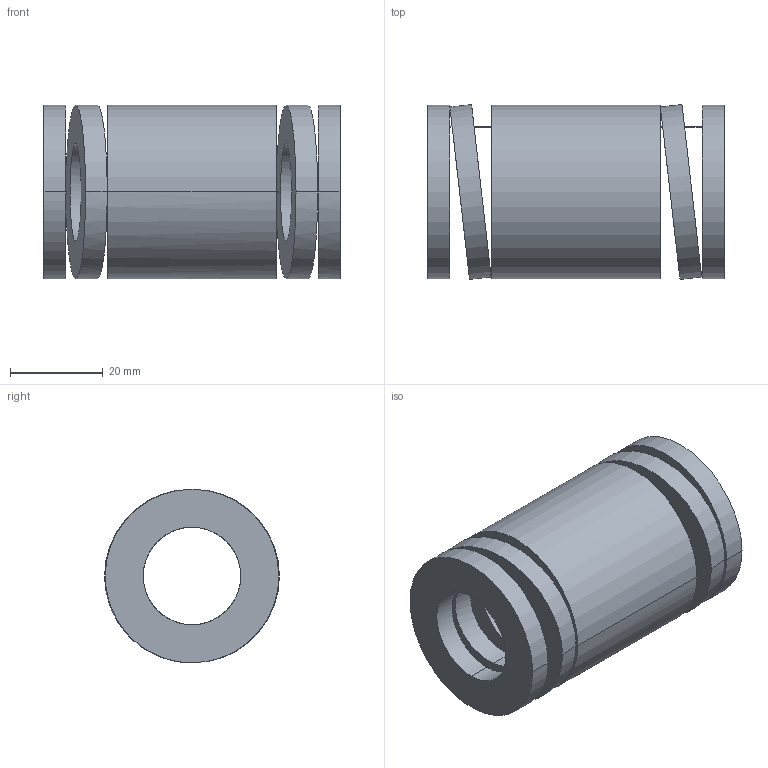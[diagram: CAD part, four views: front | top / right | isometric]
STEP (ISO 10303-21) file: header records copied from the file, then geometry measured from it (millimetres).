
FILE_DESCRIPTION(('CATIA V5 STEP Exchange'),'2;1');
FILE_NAME('C:\Users\Utente\Desktop\IO LAVORO\3D X SITO CF\X SITO\3D files 392B\392-B40-064.stp','2021-08-13T11:20:17+00:00',('none'),('none'),'CATIA Version 5 Release 20 GA (IN-10)','CATIA V5 STEP AP203','none');
FILE_SCHEMA(('CONFIG_CONTROL_DESIGN'));
Length unit declared in the file: millimetre
Products named in the file (1): 392-B40-064
Bounding box: 64 x 37.79 x 37.5 mm (x, y, z)
Volume: 41643.9 mm3; surface area: 17710.4 mm2
Topology: 1 solids, 1 shells, 38 faces, 92 edges, 64 vertices
Faces by surface type: cylinder 28, plane 10
Entity records: 1638 total; most frequent: CARTESIAN_POINT 761, ORIENTED_EDGE 184, DIRECTION 123, EDGE_CURVE 92, VERTEX_POINT 64, AXIS2_PLACEMENT_3D 58, EDGE_LOOP 56, B_SPLINE_CURVE_WITH_KNOTS 45
